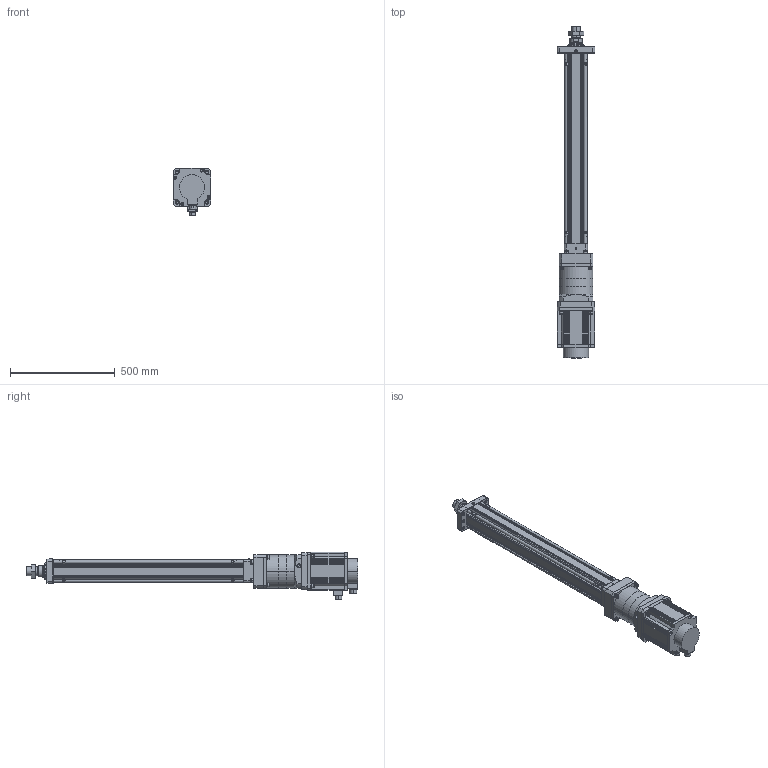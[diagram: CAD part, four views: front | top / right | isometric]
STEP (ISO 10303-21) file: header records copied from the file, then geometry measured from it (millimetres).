
FILE_DESCRIPTION((''),'2;1');
FILE_NAME('HEB100-100-D_ASM','2020-09-10T',('ASUS20200'),(''),'CREO PARAMETRIC BY PTC INC, 2014190','CREO PARAMETRIC BY PTC INC, 2014190','');
FILE_SCHEMA(('CONFIG_CONTROL_DESIGN'));
Length unit declared in the file: millimetre
Products named in the file (32): HEB100-D-P-001-X1; HEB100-D-P-002-X1; HEB100-D-P-008-X1; HEB100-D-P-003-X1; TD-12; SLM-01; YZ-M6X1; M12X60; M12X45; HEB100-D-P-004-X1; HEB100-D-P-005-X1; LM-M42X2; HEB100-100-D-P_ASM; HEB100-D-010-X1-PLF160N; ______12_1_2; __1_1__1_2; __-__25_1_2; PLFK160___1_2_ASM; ASM0002_ASM; TD-10; M10X40; 130__2; _10; 180__-5982; 180__-10214; 21_5N__; 180___-1762; 130__; 180___-6000; SMA-452K20-GJ_1_ASM; SMA-452K20-GJ_ASM; HEB100-100-D_ASM
Assembly tree (61 placements, depth 4):
  HEB100-100-D_ASM
    HEB100-100-D-P_ASM
      HEB100-D-P-001-X1
      HEB100-D-P-002-X1
      HEB100-D-P-008-X1  x4
      HEB100-D-P-003-X1
      TD-12  x8
      SLM-01
      YZ-M6X1
      M12X60  x4
      M12X45  x4
      HEB100-D-P-004-X1
      HEB100-D-P-005-X1
      LM-M42X2
    HEB100-D-010-X1-PLF160N
    ASM0002_ASM
      PLFK160___1_2_ASM
        ______12_1_2
        __1_1__1_2
        __-__25_1_2
    TD-10  x4
    M10X40  x4
    SMA-452K20-GJ_ASM
      SMA-452K20-GJ_1_ASM
        130__2
        _10
        180__-5982
        180__-10214
        21_5N__
        180___-1762
        130__
        180___-6000
    TD-12  x4
    M12X45  x4
Bounding box: 180 x 1584 x 224.92 mm (x, y, z)
Volume: 13093120.2 mm3; surface area: 2403538.6 mm2
Topology: 56 solids, 82 shells, 2421 faces, 5864 edges, 3721 vertices
Faces by surface type: plane 1057, cylinder 804, cone 422, torus 134, bspline 2, sphere 2
Entity records: 56667 total; most frequent: CARTESIAN_POINT 10798, DIRECTION 10035, ORIENTED_EDGE 8944, EDGE_CURVE 4512, AXIS2_PLACEMENT_3D 3778, VERTEX_POINT 2881, VECTOR 2479, LINE 2479
